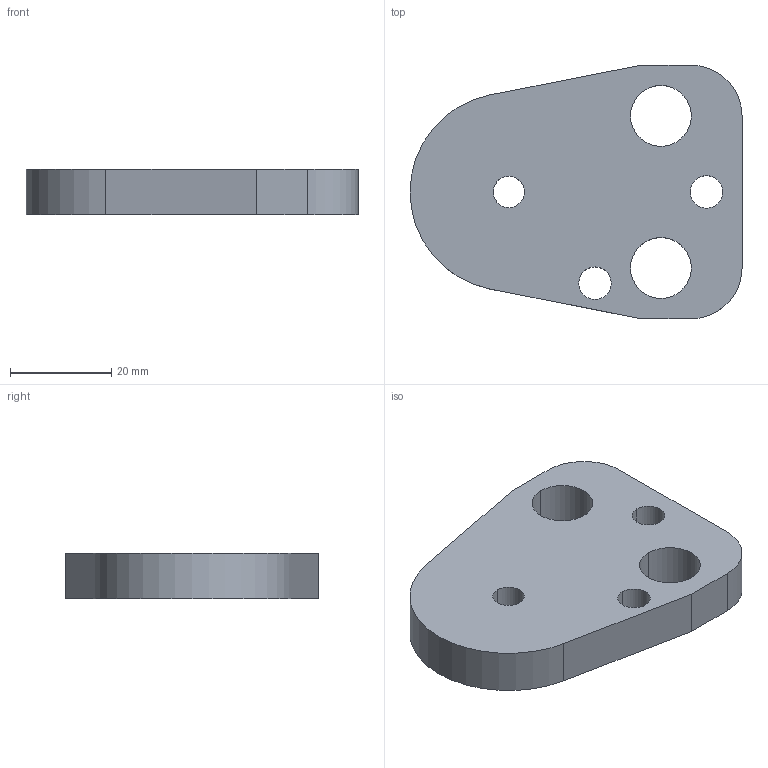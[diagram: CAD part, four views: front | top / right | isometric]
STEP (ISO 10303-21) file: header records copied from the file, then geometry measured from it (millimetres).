
FILE_DESCRIPTION(/* description */ (''),/* implementation_level */ '2;1');
FILE_NAME(/* name */ '3d_bpc25-9_03398_r00.stp',/* time_stamp */ '2011-01-10T14:17:09+09:00',/* author */ ('MISUMI'),/* organization */ (''),/* preprocessor_version */ 'ST-DEVELOPER v11',/* originating_system */ 'UGS - NX 5.0',/* authorisation */ '');
FILE_SCHEMA (('CONFIG_CONTROL_DESIGN'));
Length unit declared in the file: millimetre
Products named in the file (1): 3d_bpc25-9_03398_r00
Bounding box: 65.5 x 50 x 9 mm (x, y, z)
Volume: 21612.2 mm3; surface area: 7780.5 mm2
Topology: 1 solids, 1 shells, 20 faces, 54 edges, 36 vertices
Faces by surface type: cylinder 13, plane 7
Entity records: 750 total; most frequent: DIRECTION 122, CARTESIAN_POINT 111, ORIENTED_EDGE 108, EDGE_CURVE 54, AXIS2_PLACEMENT_3D 47, VERTEX_POINT 36, EDGE_LOOP 30, LINE 28
